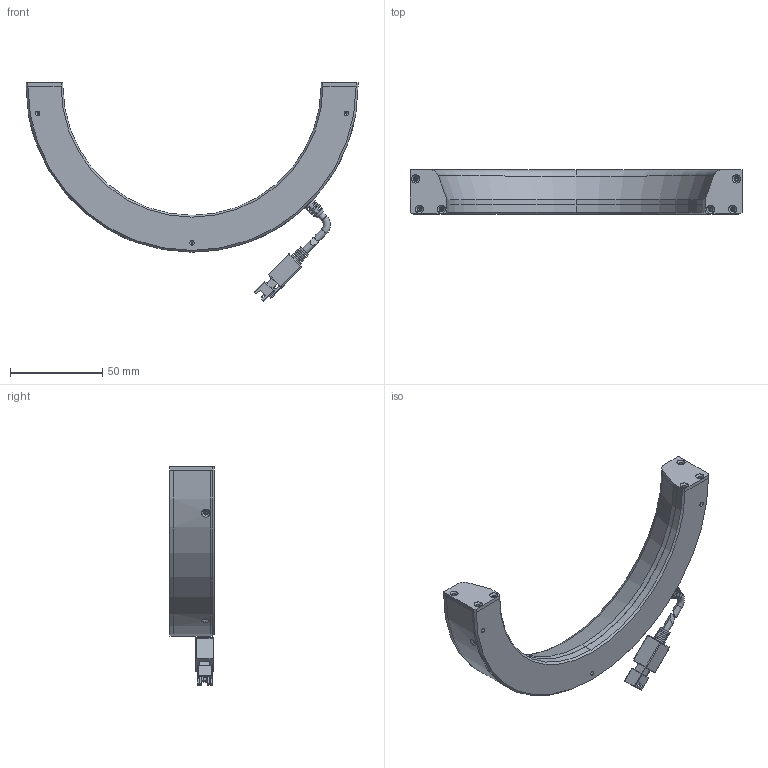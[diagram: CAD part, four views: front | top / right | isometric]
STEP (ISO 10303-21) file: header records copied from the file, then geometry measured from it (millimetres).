
FILE_DESCRIPTION (( 'STEP AP203' ), '1' );
FILE_NAME ('PPX-RIC18070-W.STEP', '2022-05-04T05:56:17', ( 'China' ), ( 'Home' ), 'SwSTEP 2.0', 'SolidWorks 2016', '' );
FILE_SCHEMA (( 'CONFIG_CONTROL_DESIGN' ));
Length unit declared in the file: millimetre
Products named in the file (8): PPX-RIC18070菁釱; PPX-RIC18070俋褲; PPX-RIC18070PCB; 两芯电源线 （母端） - 副本; PPX-RIC18070-MCS; PPX-RIC18070-W; PPX-RIC18070酘裔啣; PPX-RIC18070衵裔啣
Assembly tree (7 placements, depth 2):
  PPX-RIC18070-W
    PPX-RIC18070菁釱
    PPX-RIC18070俋褲
    PPX-RIC18070PCB
    PPX-RIC18070-MCS
    PPX-RIC18070酘裔啣
    PPX-RIC18070衵裔啣
    两芯电源线 （母端） - 副本
Bounding box: 180 x 24 x 118.71 mm (x, y, z)
Volume: 78169 mm3; surface area: 66130.6 mm2
Topology: 8 solids, 8 shells, 478 faces, 1240 edges, 776 vertices
Faces by surface type: plane 198, cylinder 162, cone 80, torus 32, sphere 4, bspline 2
Entity records: 16158 total; most frequent: CARTESIAN_POINT 3439, DIRECTION 2573, ORIENTED_EDGE 2424, EDGE_CURVE 1212, AXIS2_PLACEMENT_3D 938, VERTEX_POINT 776, LINE 697, VECTOR 697
